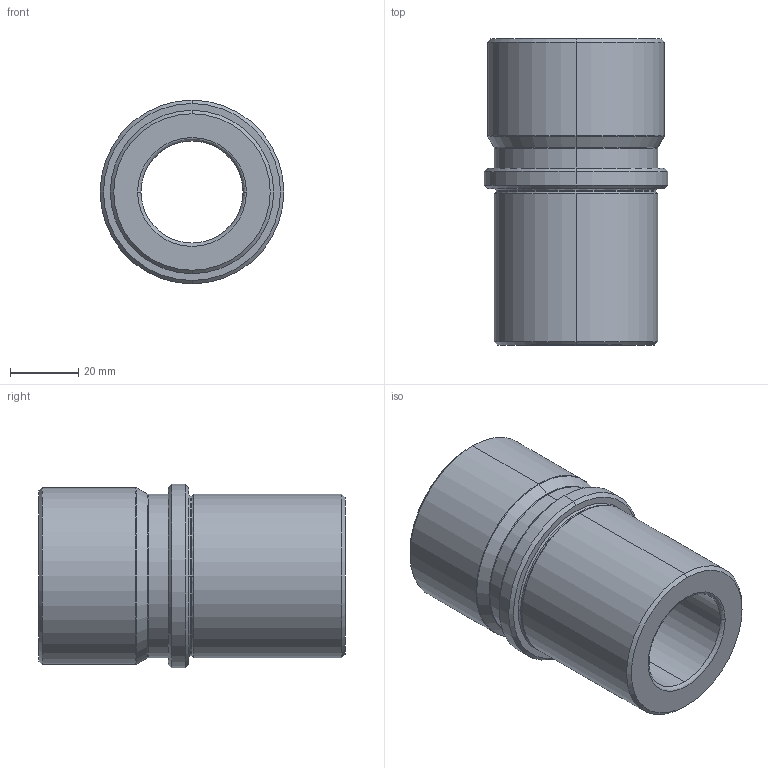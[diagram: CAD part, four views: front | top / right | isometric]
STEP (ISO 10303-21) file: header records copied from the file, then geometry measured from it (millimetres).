
FILE_DESCRIPTION (( 'STEP AP214' ), '1' );
FILE_NAME ('D32_30x90x46.step', '2011-12-16T13:25:08', ( 'Dell' ), ( '' ), 'SwSTEP 2.0', 'SolidWorks 2010', '' );
FILE_SCHEMA (( 'AUTOMOTIVE_DESIGN' ));
Length unit declared in the file: millimetre
Products named in the file (1): D32_30x90x46
Bounding box: 54 x 90 x 54 mm (x, y, z)
Volume: 111164.8 mm3; surface area: 25713 mm2
Topology: 1 solids, 1 shells, 38 faces, 94 edges, 60 vertices
Faces by surface type: bspline 12, cylinder 12, cone 10, plane 4
Entity records: 1336 total; most frequent: CARTESIAN_POINT 409, DIRECTION 196, ORIENTED_EDGE 188, EDGE_CURVE 94, AXIS2_PLACEMENT_3D 87, VERTEX_POINT 60, CIRCLE 60, EDGE_LOOP 42
